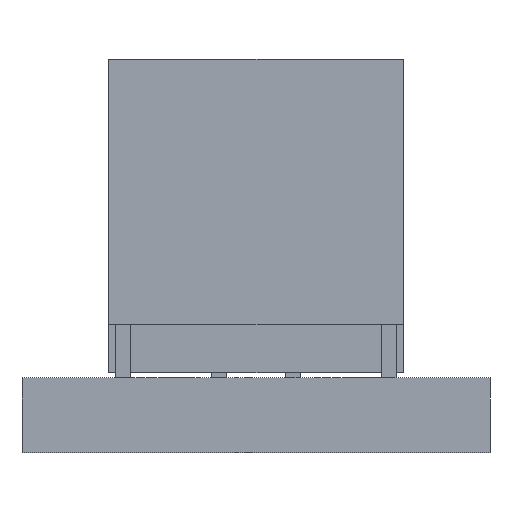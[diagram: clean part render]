
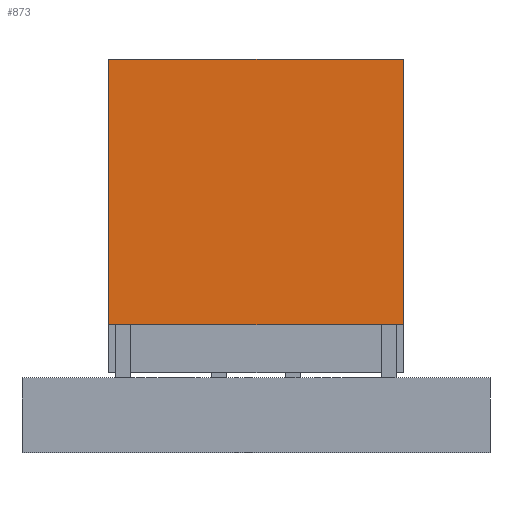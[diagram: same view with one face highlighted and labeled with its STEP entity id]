
A CAD part, front view. The second image highlights one B-rep face of the part: STEP entity #873.
In plain terms, the highlighted planar face has unit normal (0, -1, 0).
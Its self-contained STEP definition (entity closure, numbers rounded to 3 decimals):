
#773 = CARTESIAN_POINT ( 'NONE',  ( 1.175, 5.829, 1.736 ) ) ;
#873 = ADVANCED_FACE ( 'NONE', ( #22559 ), #16534, .F. ) ;
#1169 = EDGE_LOOP ( 'NONE', ( #3492, #21579, #22128, #3929 ) ) ;
#1815 = DIRECTION ( 'NONE',  ( 0., 0., -1. ) ) ;
#2610 = DIRECTION ( 'NONE',  ( 1., 0., 0. ) ) ;
#3026 = CARTESIAN_POINT ( 'NONE',  ( 1.175, 5.829, 5.336 ) ) ;
#3492 = ORIENTED_EDGE ( 'NONE', *, *, #11550, .T. ) ;
#3869 = EDGE_CURVE ( 'NONE', #8783, #25012, #10154, .T. ) ;
#3929 = ORIENTED_EDGE ( 'NONE', *, *, #25481, .F. ) ;
#3960 = VECTOR ( 'NONE', #12455, 1000. ) ;
#4321 = CARTESIAN_POINT ( 'NONE',  ( 5.175, 5.829, 1.736 ) ) ;
#5649 = EDGE_CURVE ( 'NONE', #15200, #25012, #26432, .T. ) ;
#7251 = CARTESIAN_POINT ( 'NONE',  ( 1.175, 5.829, 5.336 ) ) ;
#8519 = VECTOR ( 'NONE', #15643, 1000. ) ;
#8783 = VERTEX_POINT ( 'NONE', #22119 ) ;
#9877 = VERTEX_POINT ( 'NONE', #3026 ) ;
#9963 = LINE ( 'NONE', #18626, #3960 ) ;
#10154 = LINE ( 'NONE', #18820, #11485 ) ;
#10413 = AXIS2_PLACEMENT_3D ( 'NONE', #22432, #24476, #14070 ) ;
#11485 = VECTOR ( 'NONE', #1815, 1000. ) ;
#11550 = EDGE_CURVE ( 'NONE', #9877, #15200, #26082, .T. ) ;
#12455 = DIRECTION ( 'NONE',  ( 1., 0., 0. ) ) ;
#14070 = DIRECTION ( 'NONE',  ( -1., 0., 0. ) ) ;
#15200 = VERTEX_POINT ( 'NONE', #773 ) ;
#15643 = DIRECTION ( 'NONE',  ( 0., 0., -1. ) ) ;
#16534 = PLANE ( 'NONE',  #10413 ) ;
#17153 = CARTESIAN_POINT ( 'NONE',  ( 1.175, 5.829, 1.736 ) ) ;
#18626 = CARTESIAN_POINT ( 'NONE',  ( 1.175, 5.829, 5.336 ) ) ;
#18820 = CARTESIAN_POINT ( 'NONE',  ( 5.175, 5.829, 5.336 ) ) ;
#20638 = VECTOR ( 'NONE', #2610, 1000. ) ;
#21579 = ORIENTED_EDGE ( 'NONE', *, *, #5649, .T. ) ;
#22119 = CARTESIAN_POINT ( 'NONE',  ( 5.175, 5.829, 5.336 ) ) ;
#22128 = ORIENTED_EDGE ( 'NONE', *, *, #3869, .F. ) ;
#22432 = CARTESIAN_POINT ( 'NONE',  ( 1.175, 5.829, 5.336 ) ) ;
#22559 = FACE_OUTER_BOUND ( 'NONE', #1169, .T. ) ;
#24476 = DIRECTION ( 'NONE',  ( 0., 1., 0. ) ) ;
#25012 = VERTEX_POINT ( 'NONE', #4321 ) ;
#25481 = EDGE_CURVE ( 'NONE', #9877, #8783, #9963, .T. ) ;
#26082 = LINE ( 'NONE', #7251, #8519 ) ;
#26432 = LINE ( 'NONE', #17153, #20638 ) ;
